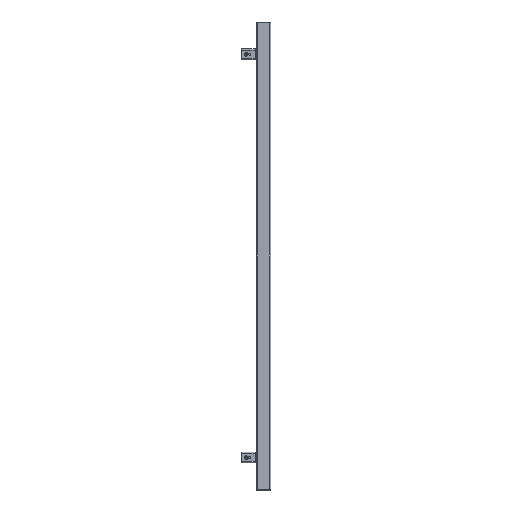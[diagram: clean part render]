
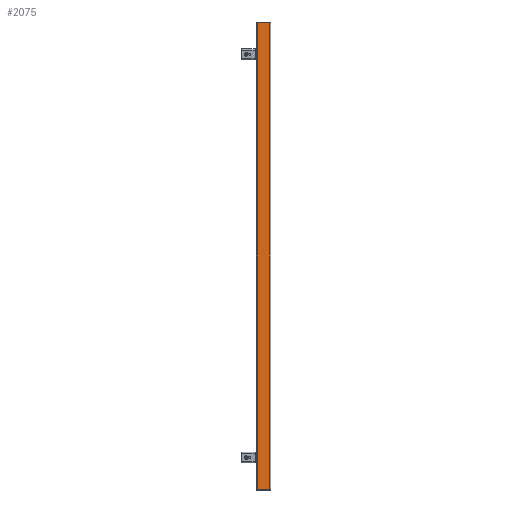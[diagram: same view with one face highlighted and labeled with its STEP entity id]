
A CAD part, left-side view. The second image highlights one B-rep face of the part: STEP entity #2075.
In plain terms, the highlighted planar face has unit normal (-1, 0, 0).
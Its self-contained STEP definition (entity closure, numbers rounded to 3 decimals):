
#1726=CARTESIAN_POINT('',(-240.0,-17.,1.5));
#1727=VERTEX_POINT('',#1726);
#1878=CARTESIAN_POINT('',(-240.0,17.,1.5));
#1879=VERTEX_POINT('',#1878);
#1896=CARTESIAN_POINT('',(-240.0,-17.,1.5));
#1897=DIRECTION('',(0.0,1.0,0.0));
#1898=VECTOR('',#1897,34.0);
#1899=LINE('',#1896,#1898);
#1900=EDGE_CURVE('',#1727,#1879,#1899,.T.);
#2045=CARTESIAN_POINT('',(-240.0,-17.,0.0));
#2046=DIRECTION('',(-1.0,0.0,0.0));
#2047=DIRECTION('',(0.0,0.0,1.0));
#2048=AXIS2_PLACEMENT_3D('',#2045,#2046,#2047);
#2049=PLANE('',#2048);
#2050=ORIENTED_EDGE('',*,*,#1900,.F.);
#2051=CARTESIAN_POINT('',(-240.0,-17.,1298.5));
#2052=VERTEX_POINT('',#2051);
#2053=CARTESIAN_POINT('',(-240.0,-17.,1.5));
#2054=DIRECTION('',(0.0,0.0,1.0));
#2055=VECTOR('',#2054,1297.0);
#2056=LINE('',#2053,#2055);
#2057=EDGE_CURVE('',#1727,#2052,#2056,.T.);
#2058=ORIENTED_EDGE('',*,*,#2057,.T.);
#2059=CARTESIAN_POINT('',(-240.0,17.,1298.5));
#2060=VERTEX_POINT('',#2059);
#2061=CARTESIAN_POINT('',(-240.0,17.,1298.5));
#2062=DIRECTION('',(0.0,-1.0,0.0));
#2063=VECTOR('',#2062,34.0);
#2064=LINE('',#2061,#2063);
#2065=EDGE_CURVE('',#2060,#2052,#2064,.T.);
#2066=ORIENTED_EDGE('',*,*,#2065,.F.);
#2067=CARTESIAN_POINT('',(-240.0,17.,1.5));
#2068=DIRECTION('',(0.0,0.0,1.0));
#2069=VECTOR('',#2068,1297.0);
#2070=LINE('',#2067,#2069);
#2071=EDGE_CURVE('',#1879,#2060,#2070,.T.);
#2072=ORIENTED_EDGE('',*,*,#2071,.F.);
#2073=EDGE_LOOP('',(#2050,#2058,#2066,#2072));
#2074=FACE_OUTER_BOUND('',#2073,.T.);
#2075=ADVANCED_FACE('',(#2074),#2049,.T.);
